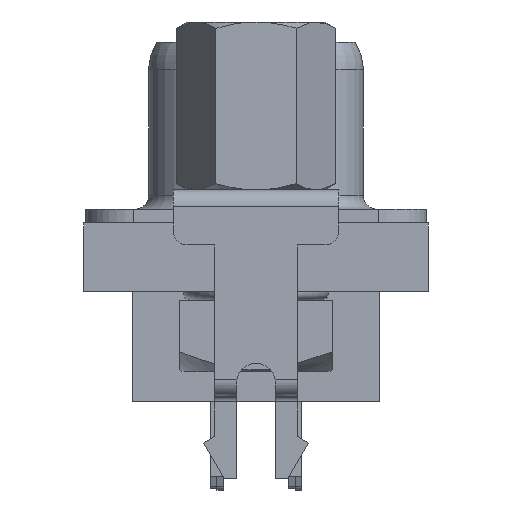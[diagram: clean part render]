
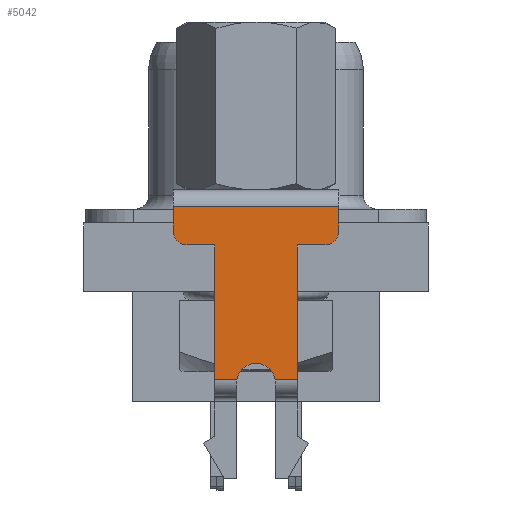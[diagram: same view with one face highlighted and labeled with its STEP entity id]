
A CAD part, left-side view. The second image highlights one B-rep face of the part: STEP entity #5042.
In plain terms, the highlighted planar face has unit normal (-1, 0, 0).
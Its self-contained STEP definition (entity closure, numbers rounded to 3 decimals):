
#320 = CIRCLE ( 'NONE', #14672, 0.7 ) ;
#327 = DIRECTION ( 'NONE',  ( -1., 0., 0. ) ) ;
#841 = PLANE ( 'NONE',  #19863 ) ;
#852 = VECTOR ( 'NONE', #23429, 1000. ) ;
#953 = CARTESIAN_POINT ( 'NONE',  ( -27.02, -3., -6.8 ) ) ;
#1062 = LINE ( 'NONE', #20732, #1445 ) ;
#1128 = EDGE_CURVE ( 'NONE', #12717, #12864, #3283, .T. ) ;
#1295 = ORIENTED_EDGE ( 'NONE', *, *, #22392, .T. ) ;
#1346 = VERTEX_POINT ( 'NONE', #22998 ) ;
#1364 = DIRECTION ( 'NONE',  ( 0., 0., 1. ) ) ;
#1445 = VECTOR ( 'NONE', #4999, 1000. ) ;
#1532 = ORIENTED_EDGE ( 'NONE', *, *, #19209, .F. ) ;
#1823 = VECTOR ( 'NONE', #23418, 1000. ) ;
#2758 = ORIENTED_EDGE ( 'NONE', *, *, #1128, .F. ) ;
#3283 = LINE ( 'NONE', #27646, #23536 ) ;
#3358 = DIRECTION ( 'NONE',  ( 0., 0., 1. ) ) ;
#3476 = VERTEX_POINT ( 'NONE', #7829 ) ;
#3821 = EDGE_CURVE ( 'NONE', #4101, #1346, #21878, .T. ) ;
#3869 = CARTESIAN_POINT ( 'NONE',  ( -27.02, 0., -3.3 ) ) ;
#4019 = EDGE_CURVE ( 'NONE', #28302, #18427, #29938, .T. ) ;
#4101 = VERTEX_POINT ( 'NONE', #26853 ) ;
#4300 = DIRECTION ( 'NONE',  ( 0., 1., 0. ) ) ;
#4904 = CARTESIAN_POINT ( 'NONE',  ( -27.02, -2.5, 2.2 ) ) ;
#4999 = DIRECTION ( 'NONE',  ( 0., 0., -1. ) ) ;
#5042 = ADVANCED_FACE ( 'NONE', ( #20700 ), #841, .T. ) ;
#6441 = VERTEX_POINT ( 'NONE', #18930 ) ;
#7829 = CARTESIAN_POINT ( 'NONE',  ( -27.02, 1.5, 1.7 ) ) ;
#9103 = DIRECTION ( 'NONE',  ( 0., -1., 0. ) ) ;
#9302 = CARTESIAN_POINT ( 'NONE',  ( -27.02, 2.5, 2.2 ) ) ;
#9762 = CARTESIAN_POINT ( 'NONE',  ( -27.02, 3., -6.8 ) ) ;
#10068 = EDGE_CURVE ( 'NONE', #3476, #18427, #25678, .T. ) ;
#10211 = DIRECTION ( 'NONE',  ( 0., 1., 0. ) ) ;
#10275 = VECTOR ( 'NONE', #23790, 1000. ) ;
#11160 = CARTESIAN_POINT ( 'NONE',  ( -27.02, -1.5, 1.7 ) ) ;
#12418 = VERTEX_POINT ( 'NONE', #27993 ) ;
#12658 = CARTESIAN_POINT ( 'NONE',  ( -27.02, 3., 2.2 ) ) ;
#12717 = VERTEX_POINT ( 'NONE', #19517 ) ;
#12864 = VERTEX_POINT ( 'NONE', #11160 ) ;
#13102 = DIRECTION ( 'NONE',  ( -1., 0., 0. ) ) ;
#13340 = AXIS2_PLACEMENT_3D ( 'NONE', #4904, #327, #25863 ) ;
#14501 = ORIENTED_EDGE ( 'NONE', *, *, #4019, .T. ) ;
#14672 = AXIS2_PLACEMENT_3D ( 'NONE', #3869, #13102, #15391 ) ;
#15092 = LINE ( 'NONE', #15543, #20454 ) ;
#15391 = DIRECTION ( 'NONE',  ( 0., -1., 0. ) ) ;
#15543 = CARTESIAN_POINT ( 'NONE',  ( -27.02, -3., -6.8 ) ) ;
#15581 = LINE ( 'NONE', #9762, #1823 ) ;
#16387 = LINE ( 'NONE', #18809, #10275 ) ;
#17149 = DIRECTION ( 'NONE',  ( -1., 0., 0. ) ) ;
#17191 = CARTESIAN_POINT ( 'NONE',  ( -27.02, 1.5, 1.7 ) ) ;
#17355 = VERTEX_POINT ( 'NONE', #21150 ) ;
#17676 = ORIENTED_EDGE ( 'NONE', *, *, #24713, .F. ) ;
#18175 = CARTESIAN_POINT ( 'NONE',  ( -27.02, -0.693, -3.2 ) ) ;
#18292 = AXIS2_PLACEMENT_3D ( 'NONE', #9302, #23246, #9103 ) ;
#18297 = CIRCLE ( 'NONE', #13340, 0.5 ) ;
#18427 = VERTEX_POINT ( 'NONE', #25814 ) ;
#18617 = EDGE_LOOP ( 'NONE', ( #26657, #1295, #1532, #2758, #24578, #29466, #19717, #17676, #14501, #25494, #29366, #27617 ) ) ;
#18809 = CARTESIAN_POINT ( 'NONE',  ( -27.02, -1.5, -3.2 ) ) ;
#18930 = CARTESIAN_POINT ( 'NONE',  ( -27.02, 3., 3.1 ) ) ;
#19209 = EDGE_CURVE ( 'NONE', #12864, #17355, #1062, .T. ) ;
#19517 = CARTESIAN_POINT ( 'NONE',  ( -27.02, -2.5, 1.7 ) ) ;
#19581 = EDGE_CURVE ( 'NONE', #30031, #1346, #320, .T. ) ;
#19717 = ORIENTED_EDGE ( 'NONE', *, *, #21851, .T. ) ;
#19863 = AXIS2_PLACEMENT_3D ( 'NONE', #953, #17149, #28864 ) ;
#20454 = VECTOR ( 'NONE', #1364, 1000. ) ;
#20471 = DIRECTION ( 'NONE',  ( 0., 1., 0. ) ) ;
#20700 = FACE_OUTER_BOUND ( 'NONE', #18617, .T. ) ;
#20732 = CARTESIAN_POINT ( 'NONE',  ( -27.02, -1.5, 1.7 ) ) ;
#20858 = EDGE_CURVE ( 'NONE', #12717, #22088, #18297, .T. ) ;
#21150 = CARTESIAN_POINT ( 'NONE',  ( -27.02, -1.5, -3.2 ) ) ;
#21851 = EDGE_CURVE ( 'NONE', #12418, #6441, #28813, .T. ) ;
#21878 = LINE ( 'NONE', #27922, #852 ) ;
#22088 = VERTEX_POINT ( 'NONE', #24030 ) ;
#22374 = CARTESIAN_POINT ( 'NONE',  ( -27.02, -3., 3.1 ) ) ;
#22392 = EDGE_CURVE ( 'NONE', #30031, #17355, #16387, .T. ) ;
#22927 = VECTOR ( 'NONE', #4300, 1000. ) ;
#22998 = CARTESIAN_POINT ( 'NONE',  ( -27.02, 0.693, -3.2 ) ) ;
#23246 = DIRECTION ( 'NONE',  ( -1., 0., 0. ) ) ;
#23418 = DIRECTION ( 'NONE',  ( 0., 0., 1. ) ) ;
#23429 = DIRECTION ( 'NONE',  ( 0., -1., 0. ) ) ;
#23536 = VECTOR ( 'NONE', #20471, 1000. ) ;
#23790 = DIRECTION ( 'NONE',  ( 0., -1., 0. ) ) ;
#24030 = CARTESIAN_POINT ( 'NONE',  ( -27.02, -3., 2.2 ) ) ;
#24080 = CARTESIAN_POINT ( 'NONE',  ( -27.02, 3., 1.7 ) ) ;
#24578 = ORIENTED_EDGE ( 'NONE', *, *, #20858, .T. ) ;
#24713 = EDGE_CURVE ( 'NONE', #28302, #6441, #15581, .T. ) ;
#25494 = ORIENTED_EDGE ( 'NONE', *, *, #10068, .F. ) ;
#25678 = LINE ( 'NONE', #24080, #29691 ) ;
#25814 = CARTESIAN_POINT ( 'NONE',  ( -27.02, 2.5, 1.7 ) ) ;
#25863 = DIRECTION ( 'NONE',  ( 0., -1., 0. ) ) ;
#26606 = LINE ( 'NONE', #17191, #26951 ) ;
#26657 = ORIENTED_EDGE ( 'NONE', *, *, #19581, .F. ) ;
#26853 = CARTESIAN_POINT ( 'NONE',  ( -27.02, 1.5, -3.2 ) ) ;
#26951 = VECTOR ( 'NONE', #3358, 1000. ) ;
#26973 = EDGE_CURVE ( 'NONE', #22088, #12418, #15092, .T. ) ;
#27617 = ORIENTED_EDGE ( 'NONE', *, *, #3821, .T. ) ;
#27646 = CARTESIAN_POINT ( 'NONE',  ( -27.02, -3., 1.7 ) ) ;
#27922 = CARTESIAN_POINT ( 'NONE',  ( -27.02, 0.7, -3.2 ) ) ;
#27993 = CARTESIAN_POINT ( 'NONE',  ( -27.02, -3., 3.1 ) ) ;
#28302 = VERTEX_POINT ( 'NONE', #12658 ) ;
#28813 = LINE ( 'NONE', #22374, #22927 ) ;
#28864 = DIRECTION ( 'NONE',  ( 0., -1., 0. ) ) ;
#29063 = EDGE_CURVE ( 'NONE', #4101, #3476, #26606, .T. ) ;
#29366 = ORIENTED_EDGE ( 'NONE', *, *, #29063, .F. ) ;
#29466 = ORIENTED_EDGE ( 'NONE', *, *, #26973, .T. ) ;
#29691 = VECTOR ( 'NONE', #10211, 1000. ) ;
#29938 = CIRCLE ( 'NONE', #18292, 0.5 ) ;
#30031 = VERTEX_POINT ( 'NONE', #18175 ) ;
